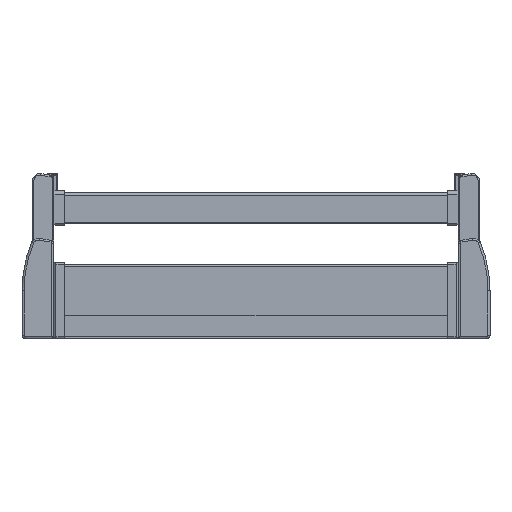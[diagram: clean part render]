
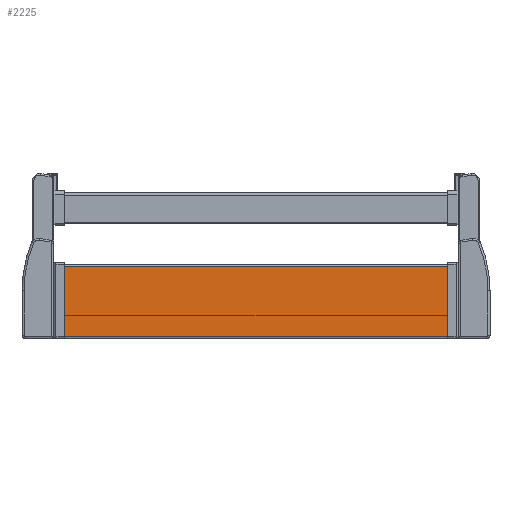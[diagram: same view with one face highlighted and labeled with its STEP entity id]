
A CAD part, top view. The second image highlights one B-rep face of the part: STEP entity #2225.
In plain terms, the highlighted planar face has unit normal (0, 0, 1).
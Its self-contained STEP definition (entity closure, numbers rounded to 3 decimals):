
#1649 = CARTESIAN_POINT ( 'NONE',  ( -185.8, -23., 1.4 ) ) ;
#2219 = EDGE_CURVE ( 'NONE', #2333, #2220, #4874, .T. ) ;
#2220 = VERTEX_POINT ( 'NONE', #4870 ) ;
#2225 = ADVANCED_FACE ( 'NONE', ( #4933 ), #4925, .F. ) ;
#2226 = EDGE_LOOP ( 'NONE', ( #2227, #2228, #2229, #2663 ) ) ;
#2227 = ORIENTED_EDGE ( 'NONE', *, *, #2219, .F. ) ;
#2228 = ORIENTED_EDGE ( 'NONE', *, *, #2332, .T. ) ;
#2229 = ORIENTED_EDGE ( 'NONE', *, *, #2230, .T. ) ;
#2230 = EDGE_CURVE ( 'NONE', #2330, #6612, #4926, .T. ) ;
#2330 = VERTEX_POINT ( 'NONE', #5466 ) ;
#2332 = EDGE_CURVE ( 'NONE', #2333, #2330, #5420, .T. ) ;
#2333 = VERTEX_POINT ( 'NONE', #5416 ) ;
#2662 = EDGE_CURVE ( 'NONE', #2220, #6612, #5848, .T. ) ;
#2663 = ORIENTED_EDGE ( 'NONE', *, *, #2662, .F. ) ;
#4840 = DIRECTION ( 'NONE',  ( -1., 0., 0. ) ) ;
#4841 = VECTOR ( 'NONE', #4840, 1000. ) ;
#4842 = CARTESIAN_POINT ( 'NONE',  ( 259.556, -23., 1.4 ) ) ;
#4843 = DIRECTION ( 'NONE',  ( 0., 1., 0. ) ) ;
#4844 = DIRECTION ( 'NONE',  ( 0., 0., -1. ) ) ;
#4845 = CARTESIAN_POINT ( 'NONE',  ( 259.556, -92.5, 1.4 ) ) ;
#4870 = CARTESIAN_POINT ( 'NONE',  ( -185.8, -92.5, 1.4 ) ) ;
#4871 = DIRECTION ( 'NONE',  ( -1., 0., 0. ) ) ;
#4872 = VECTOR ( 'NONE', #4871, 1000. ) ;
#4873 = CARTESIAN_POINT ( 'NONE',  ( 259.556, -92.5, 1.4 ) ) ;
#4874 = LINE ( 'NONE', #4873, #4872 ) ;
#4925 = PLANE ( 'NONE',  #4927 ) ;
#4926 = LINE ( 'NONE', #4842, #4841 ) ;
#4927 = AXIS2_PLACEMENT_3D ( 'NONE', #4845, #4844, #4843 ) ;
#4933 = FACE_OUTER_BOUND ( 'NONE', #2226, .T. ) ;
#5416 = CARTESIAN_POINT ( 'NONE',  ( 185.8, -92.5, 1.4 ) ) ;
#5417 = DIRECTION ( 'NONE',  ( 0., 1., 0. ) ) ;
#5418 = VECTOR ( 'NONE', #5417, 1000. ) ;
#5419 = CARTESIAN_POINT ( 'NONE',  ( 185.8, -92.5, 1.4 ) ) ;
#5420 = LINE ( 'NONE', #5419, #5418 ) ;
#5466 = CARTESIAN_POINT ( 'NONE',  ( 185.8, -23., 1.4 ) ) ;
#5845 = DIRECTION ( 'NONE',  ( 0., 1., 0. ) ) ;
#5846 = VECTOR ( 'NONE', #5845, 1000. ) ;
#5847 = CARTESIAN_POINT ( 'NONE',  ( -185.8, -92.5, 1.4 ) ) ;
#5848 = LINE ( 'NONE', #5847, #5846 ) ;
#6612 = VERTEX_POINT ( 'NONE', #1649 ) ;
